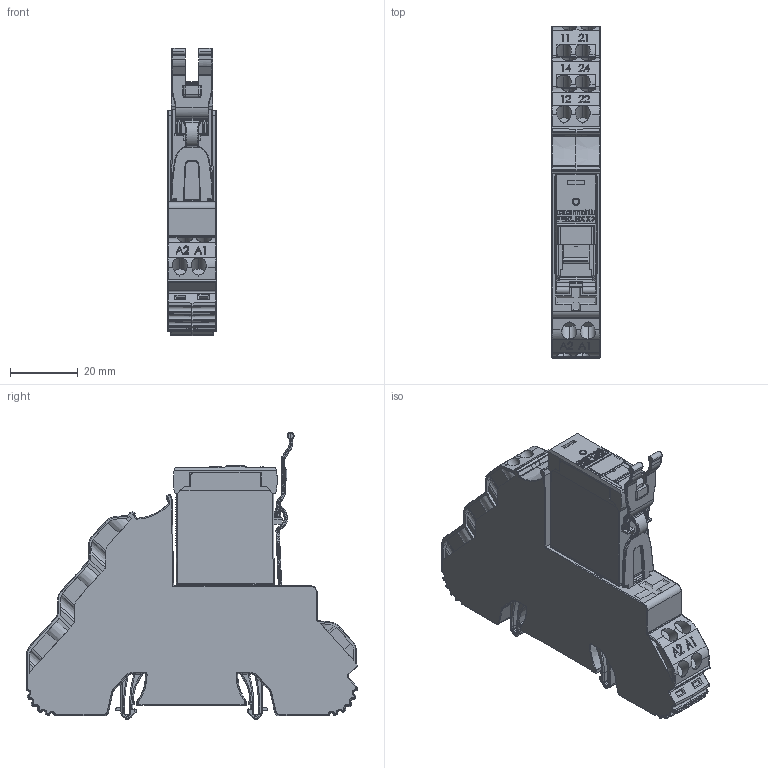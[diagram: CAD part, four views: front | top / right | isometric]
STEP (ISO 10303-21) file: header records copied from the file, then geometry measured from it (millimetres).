
FILE_DESCRIPTION (( 'STEP AP214' ), '1' );
FILE_NAME ('S12-PI+C12.STEP', '2020-11-19T15:24:14', ( '' ), ( '' ), 'SwSTEP 2.0', 'SolidWorks 2016', '' );
FILE_SCHEMA (( 'AUTOMOTIVE_DESIGN' ));
Length unit declared in the file: millimetre
Products named in the file (1): S12-PI+C12
Bounding box: 14.4 x 97.67 x 84.5 mm (x, y, z)
Volume: 64062.3 mm3; surface area: 20935.8 mm2
Topology: 3 solids, 3 shells, 2625 faces, 6658 edges, 4096 vertices
Faces by surface type: plane 1260, bspline 661, cylinder 480, cone 98, torus 92, sphere 34
Entity records: 119053 total; most frequent: CARTESIAN_POINT 33203, ORIENTED_EDGE 13290, DIRECTION 9774, EDGE_CURVE 6645, VERTEX_POINT 4094, VECTOR 3818, LINE 3818, AXIS2_PLACEMENT_3D 2978
